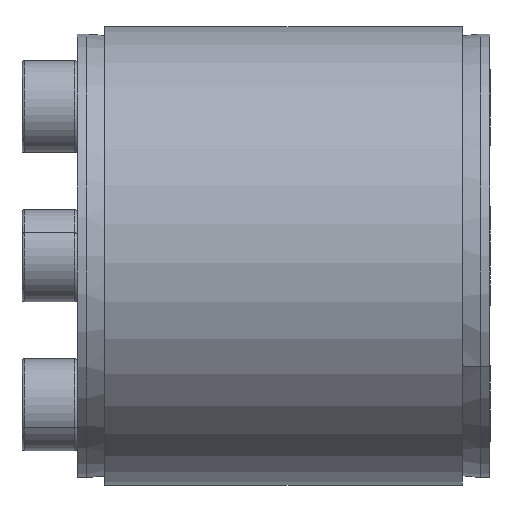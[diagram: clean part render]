
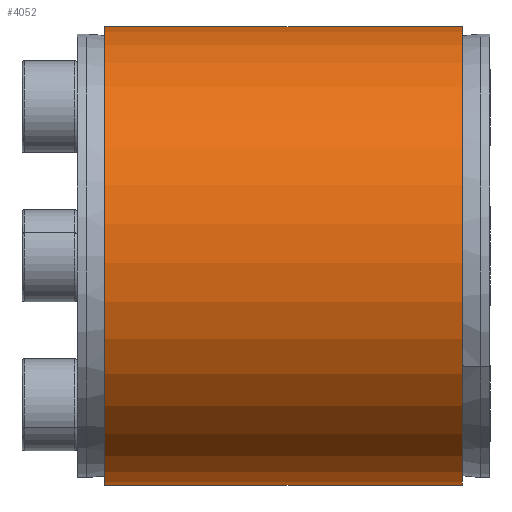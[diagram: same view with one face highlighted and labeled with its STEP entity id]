
A CAD part, front view. The second image highlights one B-rep face of the part: STEP entity #4052.
In plain terms, the highlighted cylindrical face has radius 25 mm (diameter 50 mm), a partial arc.
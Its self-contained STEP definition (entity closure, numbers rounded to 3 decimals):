
#192 = EDGE_LOOP ( 'NONE', ( #3129, #3806, #5720, #571 ) ) ;
#238 = CARTESIAN_POINT ( 'NONE',  ( -40.81, -0.174, 0. ) ) ;
#571 = ORIENTED_EDGE ( 'NONE', *, *, #1924, .F. ) ;
#657 = VERTEX_POINT ( 'NONE', #5458 ) ;
#1067 = DIRECTION ( 'NONE',  ( 0., 0., 1. ) ) ;
#1459 = CARTESIAN_POINT ( 'NONE',  ( -17.02, 1.326, 24.955 ) ) ;
#1690 = EDGE_CURVE ( 'NONE', #3340, #2263, #5464, .T. ) ;
#1821 = EDGE_CURVE ( 'NONE', #3340, #4109, #4830, .T. ) ;
#1893 = DIRECTION ( 'NONE',  ( -1., 0., 0. ) ) ;
#1900 = EDGE_CURVE ( 'NONE', #657, #4109, #4619, .T. ) ;
#1924 = EDGE_CURVE ( 'NONE', #2263, #657, #4677, .T. ) ;
#2090 = CARTESIAN_POINT ( 'NONE',  ( -40.81, 1.326, 24.955 ) ) ;
#2263 = VERTEX_POINT ( 'NONE', #1459 ) ;
#2894 = DIRECTION ( 'NONE',  ( 0., 0., 1. ) ) ;
#2923 = DIRECTION ( 'NONE',  ( -1., 0., 0. ) ) ;
#2948 = CARTESIAN_POINT ( 'NONE',  ( -17.02, -0.174, 0. ) ) ;
#2954 = AXIS2_PLACEMENT_3D ( 'NONE', #238, #5799, #1067 ) ;
#3129 = ORIENTED_EDGE ( 'NONE', *, *, #1690, .F. ) ;
#3149 = CARTESIAN_POINT ( 'NONE',  ( 21.98, 1.326, 24.955 ) ) ;
#3269 = AXIS2_PLACEMENT_3D ( 'NONE', #2948, #2923, #2894 ) ;
#3340 = VERTEX_POINT ( 'NONE', #3149 ) ;
#3504 = DIRECTION ( 'NONE',  ( 1., 0., 0. ) ) ;
#3590 = AXIS2_PLACEMENT_3D ( 'NONE', #3945, #3932, #3909 ) ;
#3666 = CARTESIAN_POINT ( 'NONE',  ( -40.81, -1.674, 24.955 ) ) ;
#3806 = ORIENTED_EDGE ( 'NONE', *, *, #1821, .T. ) ;
#3909 = DIRECTION ( 'NONE',  ( 0., 0., 1. ) ) ;
#3932 = DIRECTION ( 'NONE',  ( -1., 0., 0. ) ) ;
#3945 = CARTESIAN_POINT ( 'NONE',  ( 21.98, -0.174, 0. ) ) ;
#4052 = ADVANCED_FACE ( 'NONE', ( #5533 ), #5389, .T. ) ;
#4109 = VERTEX_POINT ( 'NONE', #5057 ) ;
#4553 = VECTOR ( 'NONE', #3504, 1000. ) ;
#4619 = LINE ( 'NONE', #3666, #4553 ) ;
#4677 = CIRCLE ( 'NONE', #3269, 25. ) ;
#4830 = CIRCLE ( 'NONE', #3590, 25. ) ;
#5057 = CARTESIAN_POINT ( 'NONE',  ( 21.98, -1.674, 24.955 ) ) ;
#5389 = CYLINDRICAL_SURFACE ( 'NONE', #2954, 25. ) ;
#5458 = CARTESIAN_POINT ( 'NONE',  ( -17.02, -1.674, 24.955 ) ) ;
#5464 = LINE ( 'NONE', #2090, #5543 ) ;
#5533 = FACE_OUTER_BOUND ( 'NONE', #192, .T. ) ;
#5543 = VECTOR ( 'NONE', #1893, 1000. ) ;
#5720 = ORIENTED_EDGE ( 'NONE', *, *, #1900, .F. ) ;
#5799 = DIRECTION ( 'NONE',  ( -1., 0., 0. ) ) ;
